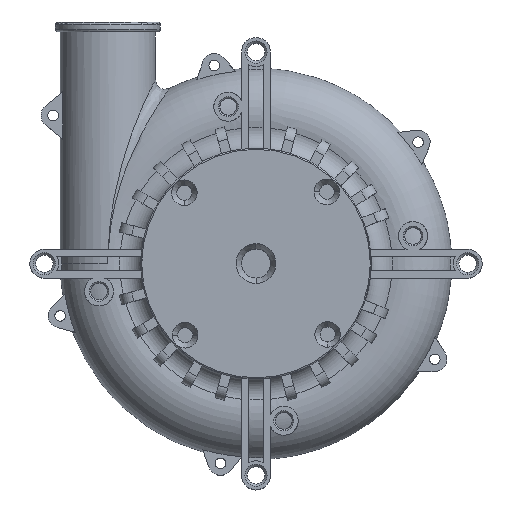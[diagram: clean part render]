
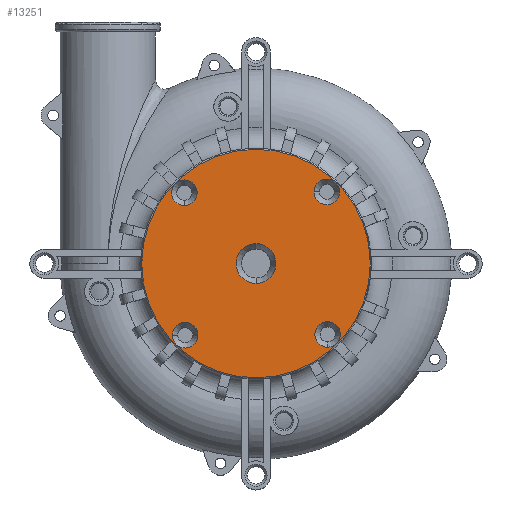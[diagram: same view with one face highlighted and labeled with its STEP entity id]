
A CAD part, top view. The second image highlights one B-rep face of the part: STEP entity #13251.
In plain terms, the highlighted planar face has unit normal (0, 0, 1).
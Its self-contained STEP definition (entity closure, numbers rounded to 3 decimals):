
#3946=CARTESIAN_POINT('',(0.,0.,43.192));
#3947=DIRECTION('',(0.,0.,-1.));
#3948=DIRECTION('',(0.006,-1.,0.));
#3949=AXIS2_PLACEMENT_3D('',#3946,#3947,#3948);
#3954=CARTESIAN_POINT('',(0.,0.,43.192));
#3955=DIRECTION('',(0.,0.,-1.));
#3956=DIRECTION('',(-0.006,1.,0.));
#3957=AXIS2_PLACEMENT_3D('',#3954,#3955,#3956);
#3962=CARTESIAN_POINT('',(14.829,-14.657,43.192));
#3963=DIRECTION('',(0.,0.,1.));
#3964=DIRECTION('',(0.006,-1.,0.));
#3965=AXIS2_PLACEMENT_3D('',#3962,#3963,#3964);
#3970=CARTESIAN_POINT('',(14.829,-14.657,43.192));
#3971=DIRECTION('',(0.,0.,1.));
#3972=DIRECTION('',(-0.006,1.,0.));
#3973=AXIS2_PLACEMENT_3D('',#3970,#3971,#3972);
#3978=CARTESIAN_POINT('',(-14.829,14.657,43.192));
#3979=DIRECTION('',(0.,0.,1.));
#3980=DIRECTION('',(-0.006,1.,0.));
#3981=AXIS2_PLACEMENT_3D('',#3978,#3979,#3980);
#3986=CARTESIAN_POINT('',(-14.829,14.657,43.192));
#3987=DIRECTION('',(0.,0.,1.));
#3988=DIRECTION('',(0.006,-1.,0.));
#3989=AXIS2_PLACEMENT_3D('',#3986,#3987,#3988);
#3994=CARTESIAN_POINT('',(0.,0.,43.192));
#3995=DIRECTION('',(0.,0.,1.));
#3996=DIRECTION('',(0.006,-1.,0.));
#3997=AXIS2_PLACEMENT_3D('',#3994,#3995,#3996);
#4002=CARTESIAN_POINT('',(0.,0.,43.192));
#4003=DIRECTION('',(0.,0.,1.));
#4004=DIRECTION('',(-0.006,1.,0.));
#4005=AXIS2_PLACEMENT_3D('',#4002,#4003,#4004);
#4010=CARTESIAN_POINT('',(-14.657,-14.829,
43.192));
#4011=DIRECTION('',(0.,0.,-1.));
#4012=DIRECTION('',(1.,0.006,0.));
#4013=AXIS2_PLACEMENT_3D('',#4010,#4011,#4012);
#4033=CARTESIAN_POINT('',(-14.657,-14.829,
43.192));
#4034=DIRECTION('',(0.,0.,-1.));
#4035=DIRECTION('',(-1.,-0.006,0.));
#4036=AXIS2_PLACEMENT_3D('',#4033,#4034,#4035);
#4252=CARTESIAN_POINT('',(14.657,14.829,43.192));
#4253=DIRECTION('',(0.,0.,-1.));
#4254=DIRECTION('',(-1.,-0.006,0.));
#4255=AXIS2_PLACEMENT_3D('',#4252,#4253,#4254);
#4275=CARTESIAN_POINT('',(14.657,14.829,43.192));
#4276=DIRECTION('',(0.,0.,-1.));
#4277=DIRECTION('',(1.,0.006,0.));
#4278=AXIS2_PLACEMENT_3D('',#4275,#4276,#4277);
#10444=CARTESIAN_POINT('',(0.138,-23.65,
43.192));
#10446=VERTEX_POINT('',#10444);
#10448=CARTESIAN_POINT('',(-0.138,23.65,
43.192));
#10449=VERTEX_POINT('',#10448);
#10456=CARTESIAN_POINT('',(14.813,-12.007,
43.192));
#10457=CARTESIAN_POINT('',(14.844,-17.307,
43.192));
#10458=VERTEX_POINT('',#10456);
#10459=VERTEX_POINT('',#10457);
#10460=CARTESIAN_POINT('',(-14.844,17.307,
43.192));
#10461=CARTESIAN_POINT('',(-14.813,12.007,
43.192));
#10462=VERTEX_POINT('',#10460);
#10463=VERTEX_POINT('',#10461);
#10464=CARTESIAN_POINT('',(0.024,-4.112,
43.192));
#10465=CARTESIAN_POINT('',(-0.024,4.112,
43.192));
#10466=VERTEX_POINT('',#10464);
#10467=VERTEX_POINT('',#10465);
#10472=CARTESIAN_POINT('',(-17.307,-14.844,
43.192));
#10474=VERTEX_POINT('',#10472);
#10476=CARTESIAN_POINT('',(-12.007,-14.813,
43.192));
#10478=VERTEX_POINT('',#10476);
#10480=CARTESIAN_POINT('',(17.307,14.844,43.192));
#10482=VERTEX_POINT('',#10480);
#10484=CARTESIAN_POINT('',(12.007,14.813,43.192));
#10486=VERTEX_POINT('',#10484);
#13212=CARTESIAN_POINT('',(0.,0.,43.192));
#13213=DIRECTION('',(0.,0.,1.));
#13214=DIRECTION('',(1.,0.006,0.));
#13215=AXIS2_PLACEMENT_3D('',#13212,#13213,#13214);
#13216=PLANE('',#13215);
#13217=ORIENTED_EDGE('',*,*,#12292,.T.);
#13218=ORIENTED_EDGE('',*,*,#11098,.T.);
#13219=EDGE_LOOP('',(#13217,#13218));
#13220=FACE_OUTER_BOUND('',#13219,.F.);
#13222=ORIENTED_EDGE('',*,*,#13221,.F.);
#13224=ORIENTED_EDGE('',*,*,#13223,.F.);
#13225=EDGE_LOOP('',(#13222,#13224));
#13226=FACE_BOUND('',#13225,.F.);
#13228=ORIENTED_EDGE('',*,*,#13227,.T.);
#13230=ORIENTED_EDGE('',*,*,#13229,.T.);
#13231=EDGE_LOOP('',(#13228,#13230));
#13232=FACE_BOUND('',#13231,.F.);
#13234=ORIENTED_EDGE('',*,*,#13233,.F.);
#13236=ORIENTED_EDGE('',*,*,#13235,.F.);
#13237=EDGE_LOOP('',(#13234,#13236));
#13238=FACE_BOUND('',#13237,.F.);
#13240=ORIENTED_EDGE('',*,*,#13239,.T.);
#13242=ORIENTED_EDGE('',*,*,#13241,.T.);
#13243=EDGE_LOOP('',(#13240,#13242));
#13244=FACE_BOUND('',#13243,.F.);
#13246=ORIENTED_EDGE('',*,*,#13245,.T.);
#13248=ORIENTED_EDGE('',*,*,#13247,.T.);
#13249=EDGE_LOOP('',(#13246,#13248));
#13250=FACE_BOUND('',#13249,.F.);
#13251=ADVANCED_FACE('',(#13220,#13226,#13232,#13238,#13244,#13250),#13216,.T.);
#3950=CIRCLE('',#3949,23.65);
#3958=CIRCLE('',#3957,23.65);
#3966=CIRCLE('',#3965,2.65);
#3974=CIRCLE('',#3973,2.65);
#3982=CIRCLE('',#3981,2.65);
#3990=CIRCLE('',#3989,2.65);
#3998=CIRCLE('',#3997,4.112);
#4006=CIRCLE('',#4005,4.112);
#4014=CIRCLE('',#4013,2.65);
#4037=CIRCLE('',#4036,2.65);
#4256=CIRCLE('',#4255,2.65);
#4279=CIRCLE('',#4278,2.65);
#11098=EDGE_CURVE('',#10449,#10446,#3958,.T.);
#12292=EDGE_CURVE('',#10446,#10449,#3950,.T.);
#13221=EDGE_CURVE('',#10478,#10474,#4014,.T.);
#13223=EDGE_CURVE('',#10474,#10478,#4037,.T.);
#13227=EDGE_CURVE('',#10459,#10458,#3966,.T.);
#13229=EDGE_CURVE('',#10458,#10459,#3974,.T.);
#13233=EDGE_CURVE('',#10486,#10482,#4256,.T.);
#13235=EDGE_CURVE('',#10482,#10486,#4279,.T.);
#13239=EDGE_CURVE('',#10462,#10463,#3982,.T.);
#13241=EDGE_CURVE('',#10463,#10462,#3990,.T.);
#13245=EDGE_CURVE('',#10466,#10467,#3998,.T.);
#13247=EDGE_CURVE('',#10467,#10466,#4006,.T.);
